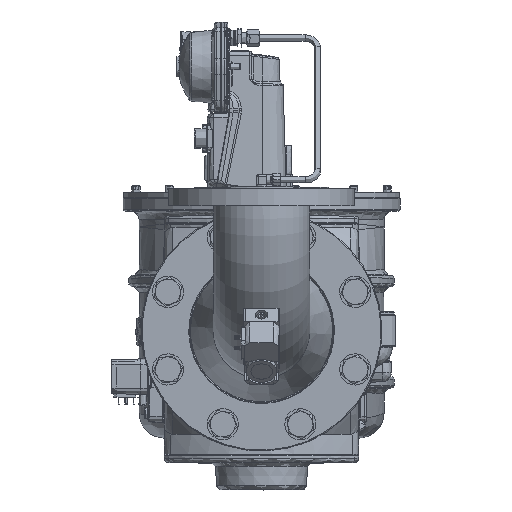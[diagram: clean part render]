
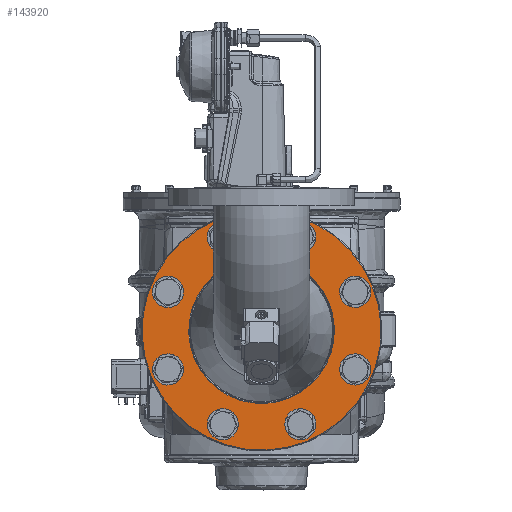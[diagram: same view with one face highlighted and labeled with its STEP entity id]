
A CAD part, top view. The second image highlights one B-rep face of the part: STEP entity #143920.
In plain terms, the highlighted planar face has unit normal (0, 0, 1).
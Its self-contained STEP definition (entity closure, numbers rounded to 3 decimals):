
#4101 = EDGE_CURVE ( 'NONE', #176950, #176950, #194277, .T. ) ;
#4689 = AXIS2_PLACEMENT_3D ( 'NONE', #54090, #53249, #226904 ) ;
#7418 = EDGE_CURVE ( 'NONE', #155591, #155591, #27390, .T. ) ;
#8666 = DIRECTION ( 'NONE',  ( 0., 0., 1. ) ) ;
#11144 = CIRCLE ( 'NONE', #135965, 11. ) ;
#16644 = VERTEX_POINT ( 'NONE', #47240 ) ;
#17143 = CIRCLE ( 'NONE', #130442, 11. ) ;
#17786 = ORIENTED_EDGE ( 'NONE', *, *, #97437, .F. ) ;
#23025 = DIRECTION ( 'NONE',  ( 0., 0., 1. ) ) ;
#23723 = FACE_BOUND ( 'NONE', #245639, .T. ) ;
#26921 = FACE_BOUND ( 'NONE', #60789, .T. ) ;
#27390 = CIRCLE ( 'NONE', #43752, 11. ) ;
#27438 = DIRECTION ( 'NONE',  ( 0.924, 0.383, 0. ) ) ;
#28028 = ORIENTED_EDGE ( 'NONE', *, *, #165635, .F. ) ;
#28685 = EDGE_CURVE ( 'NONE', #134024, #134024, #142190, .T. ) ;
#37804 = EDGE_LOOP ( 'NONE', ( #120794 ) ) ;
#41441 = CARTESIAN_POINT ( 'NONE',  ( 119.241, 115.075, 267. ) ) ;
#43752 = AXIS2_PLACEMENT_3D ( 'NONE', #239135, #179181, #240012 ) ;
#44325 = DIRECTION ( 'NONE',  ( 0.924, 0.383, 0. ) ) ;
#45622 = CARTESIAN_POINT ( 'NONE',  ( 119.241, -106.656, 267. ) ) ;
#46751 = AXIS2_PLACEMENT_3D ( 'NONE', #63552, #85860, #142305 ) ;
#47240 = CARTESIAN_POINT ( 'NONE',  ( 276.028, -41.712, 267. ) ) ;
#52412 = AXIS2_PLACEMENT_3D ( 'NONE', #120458, #239360, #44325 ) ;
#52992 = CARTESIAN_POINT ( 'NONE',  ( 265.866, 45.922, 267. ) ) ;
#53249 = DIRECTION ( 'NONE',  ( 0., 0., 1. ) ) ;
#54090 = CARTESIAN_POINT ( 'NONE',  ( 200.922, 110.866, 267. ) ) ;
#55831 = DIRECTION ( 'NONE',  ( 0.924, 0.383, 0. ) ) ;
#58693 = AXIS2_PLACEMENT_3D ( 'NONE', #52992, #210278, #112013 ) ;
#60789 = EDGE_LOOP ( 'NONE', ( #208005 ) ) ;
#61034 = CARTESIAN_POINT ( 'NONE',  ( 211.085, -106.656, 267. ) ) ;
#63165 = VERTEX_POINT ( 'NONE', #169502 ) ;
#63552 = CARTESIAN_POINT ( 'NONE',  ( 109.078, 110.866, 267. ) ) ;
#63682 = AXIS2_PLACEMENT_3D ( 'NONE', #67487, #124850, #27438 ) ;
#64893 = EDGE_CURVE ( 'NONE', #63165, #63165, #138976, .T. ) ;
#66515 = FACE_BOUND ( 'NONE', #113634, .T. ) ;
#67366 = AXIS2_PLACEMENT_3D ( 'NONE', #232909, #98626, #55831 ) ;
#67487 = CARTESIAN_POINT ( 'NONE',  ( 155., 0., 267. ) ) ;
#70406 = DIRECTION ( 'NONE',  ( 0., 0., 1. ) ) ;
#71985 = FACE_BOUND ( 'NONE', #131645, .T. ) ;
#72136 = VERTEX_POINT ( 'NONE', #249359 ) ;
#74181 = EDGE_CURVE ( 'NONE', #90806, #90806, #121955, .T. ) ;
#74446 = AXIS2_PLACEMENT_3D ( 'NONE', #102064, #119138, #81476 ) ;
#75613 = FACE_BOUND ( 'NONE', #230909, .T. ) ;
#76826 = ORIENTED_EDGE ( 'NONE', *, *, #7418, .F. ) ;
#78268 = ORIENTED_EDGE ( 'NONE', *, *, #250761, .T. ) ;
#81476 = DIRECTION ( 'NONE',  ( 0.924, 0.383, 0. ) ) ;
#85860 = DIRECTION ( 'NONE',  ( 0., 0., 1. ) ) ;
#89761 = ORIENTED_EDGE ( 'NONE', *, *, #196320, .F. ) ;
#90806 = VERTEX_POINT ( 'NONE', #190819 ) ;
#97437 = EDGE_CURVE ( 'NONE', #164058, #164058, #137626, .T. ) ;
#98626 = DIRECTION ( 'NONE',  ( 0., 0., -1. ) ) ;
#102064 = CARTESIAN_POINT ( 'NONE',  ( 109.078, -110.866, 267. ) ) ;
#106808 = DIRECTION ( 'NONE',  ( 0.924, 0.383, 0. ) ) ;
#112013 = DIRECTION ( 'NONE',  ( 0.924, 0.383, 0. ) ) ;
#113634 = EDGE_LOOP ( 'NONE', ( #28028 ) ) ;
#119138 = DIRECTION ( 'NONE',  ( 0., 0., 1. ) ) ;
#120458 = CARTESIAN_POINT ( 'NONE',  ( 44.134, -45.922, 267. ) ) ;
#120794 = ORIENTED_EDGE ( 'NONE', *, *, #64893, .T. ) ;
#121955 = CIRCLE ( 'NONE', #58693, 11. ) ;
#122940 = CIRCLE ( 'NONE', #52412, 11. ) ;
#124850 = DIRECTION ( 'NONE',  ( 0., 0., 1. ) ) ;
#126464 = ORIENTED_EDGE ( 'NONE', *, *, #28685, .F. ) ;
#130281 = DIRECTION ( 'NONE',  ( 0.924, 0.383, 0. ) ) ;
#130442 = AXIS2_PLACEMENT_3D ( 'NONE', #140048, #23025, #159661 ) ;
#130881 = FACE_BOUND ( 'NONE', #181751, .T. ) ;
#131645 = EDGE_LOOP ( 'NONE', ( #89761 ) ) ;
#132810 = EDGE_LOOP ( 'NONE', ( #78268 ) ) ;
#134024 = VERTEX_POINT ( 'NONE', #45622 ) ;
#135965 = AXIS2_PLACEMENT_3D ( 'NONE', #249170, #70406, #130281 ) ;
#137626 = CIRCLE ( 'NONE', #4689, 11. ) ;
#138976 = CIRCLE ( 'NONE', #67366, 86.25 ) ;
#139696 = CARTESIAN_POINT ( 'NONE',  ( 54.297, 50.132, 267. ) ) ;
#140048 = CARTESIAN_POINT ( 'NONE',  ( 265.866, -45.922, 267. ) ) ;
#142190 = CIRCLE ( 'NONE', #74446, 11. ) ;
#142305 = DIRECTION ( 'NONE',  ( 0.924, 0.383, 0. ) ) ;
#143920 = ADVANCED_FACE ( 'NONE', ( #176033, #71985, #66515, #222642, #23723, #26921, #75613, #130881, #164444, #253394 ), #241960, .T. ) ;
#150325 = AXIS2_PLACEMENT_3D ( 'NONE', #165726, #8666, #106808 ) ;
#154053 = CARTESIAN_POINT ( 'NONE',  ( 211.085, 115.075, 267. ) ) ;
#155591 = VERTEX_POINT ( 'NONE', #61034 ) ;
#159661 = DIRECTION ( 'NONE',  ( 0.924, 0.383, 0. ) ) ;
#164058 = VERTEX_POINT ( 'NONE', #154053 ) ;
#164444 = FACE_BOUND ( 'NONE', #244871, .T. ) ;
#165635 = EDGE_CURVE ( 'NONE', #72136, #72136, #122940, .T. ) ;
#165726 = CARTESIAN_POINT ( 'NONE',  ( 155., 0., 267. ) ) ;
#169502 = CARTESIAN_POINT ( 'NONE',  ( 234.685, 33.006, 267. ) ) ;
#170307 = CARTESIAN_POINT ( 'NONE',  ( 285.729, 54.15, 267. ) ) ;
#174717 = CIRCLE ( 'NONE', #63682, 141.5 ) ;
#175477 = VERTEX_POINT ( 'NONE', #170307 ) ;
#176033 = FACE_BOUND ( 'NONE', #37804, .T. ) ;
#176950 = VERTEX_POINT ( 'NONE', #41441 ) ;
#179181 = DIRECTION ( 'NONE',  ( 0., 0., 1. ) ) ;
#181751 = EDGE_LOOP ( 'NONE', ( #17786 ) ) ;
#184470 = ORIENTED_EDGE ( 'NONE', *, *, #74181, .F. ) ;
#190819 = CARTESIAN_POINT ( 'NONE',  ( 276.028, 50.132, 267. ) ) ;
#194277 = CIRCLE ( 'NONE', #46751, 11. ) ;
#196320 = EDGE_CURVE ( 'NONE', #230978, #230978, #11144, .T. ) ;
#208005 = ORIENTED_EDGE ( 'NONE', *, *, #228280, .F. ) ;
#210278 = DIRECTION ( 'NONE',  ( 0., 0., 1. ) ) ;
#222524 = ORIENTED_EDGE ( 'NONE', *, *, #4101, .F. ) ;
#222642 = FACE_BOUND ( 'NONE', #224328, .T. ) ;
#224328 = EDGE_LOOP ( 'NONE', ( #126464 ) ) ;
#226904 = DIRECTION ( 'NONE',  ( 0.924, 0.383, 0. ) ) ;
#228280 = EDGE_CURVE ( 'NONE', #16644, #16644, #17143, .T. ) ;
#230909 = EDGE_LOOP ( 'NONE', ( #184470 ) ) ;
#230978 = VERTEX_POINT ( 'NONE', #139696 ) ;
#232909 = CARTESIAN_POINT ( 'NONE',  ( 155., 0., 267. ) ) ;
#239135 = CARTESIAN_POINT ( 'NONE',  ( 200.922, -110.866, 267. ) ) ;
#239360 = DIRECTION ( 'NONE',  ( 0., 0., 1. ) ) ;
#240012 = DIRECTION ( 'NONE',  ( 0.924, 0.383, 0. ) ) ;
#241960 = PLANE ( 'NONE',  #150325 ) ;
#244871 = EDGE_LOOP ( 'NONE', ( #222524 ) ) ;
#245639 = EDGE_LOOP ( 'NONE', ( #76826 ) ) ;
#249170 = CARTESIAN_POINT ( 'NONE',  ( 44.134, 45.922, 267. ) ) ;
#249359 = CARTESIAN_POINT ( 'NONE',  ( 54.297, -41.712, 267. ) ) ;
#250761 = EDGE_CURVE ( 'NONE', #175477, #175477, #174717, .T. ) ;
#253394 = FACE_OUTER_BOUND ( 'NONE', #132810, .T. ) ;
